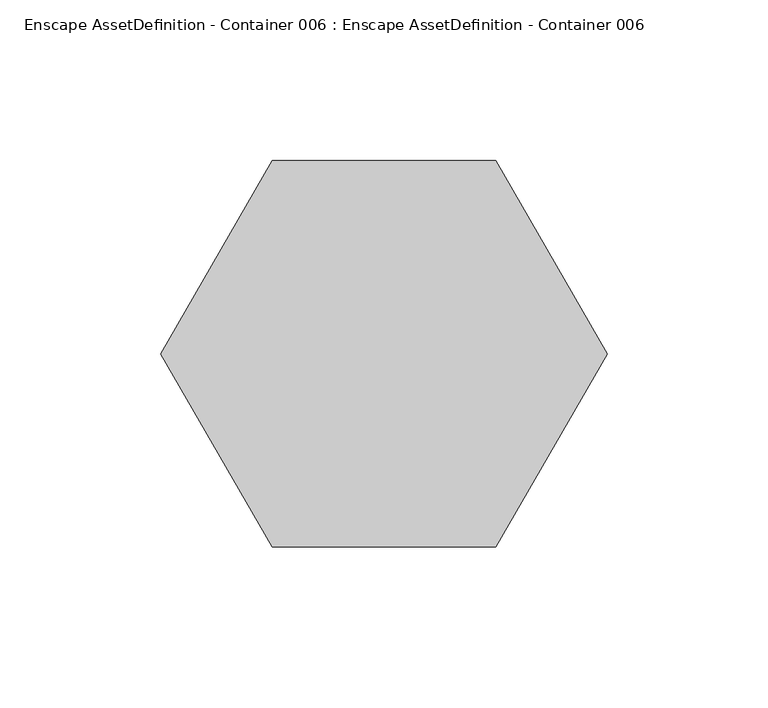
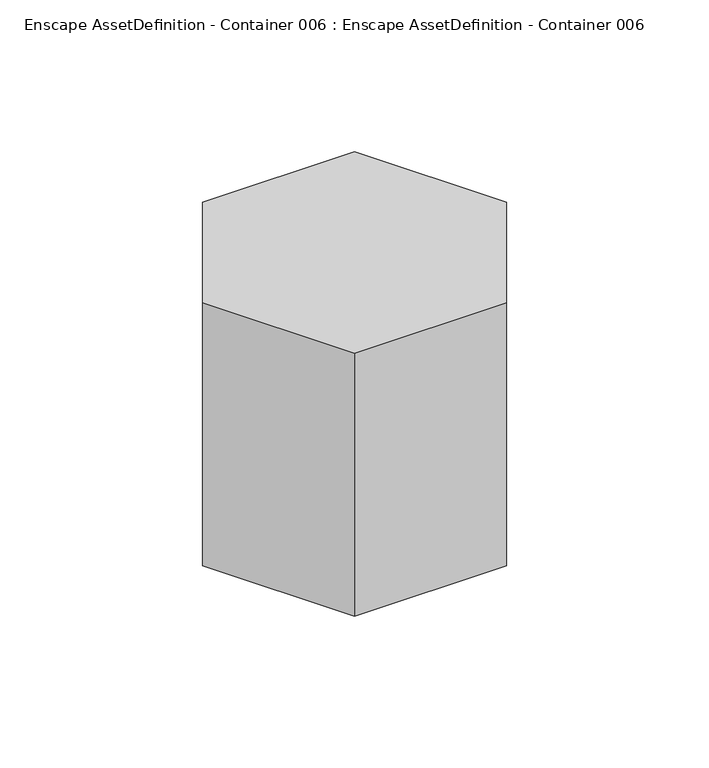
"""IFC4 building model written with IfcOpenShell, lengths in millimetres: geographic element geometry, Enscape AssetDefinition - Container 006 : Enscape AssetDefinition - Container 006."""

from ifc_helpers import new_model, si_unit, origin, place, context, project, spatial, triangles, source, transform, mapped, element, save


def enscape_assetdefinition_container_006_enscape_9a3ee224(model_context):
    return source(origin(), model_context, "Body", "Tessellation", [
        triangles([(69.3772288, -0.0049505, -0.0831683), (34.6881193, 60.0772287, 126.7722674), (34.6881193, 60.0772287, -0.0831683), (-34.6891095, 60.0772287, 126.7722674), (-34.6891095, -60.0881201, -0.0831683), (34.6881193, -60.0881201, -0.0831683), (-34.6891095, 60.0772287, -0.0831683), (-69.3782144, -0.0049505, -0.0831683), (-69.3782144, -0.0049505, 126.7722674), (-34.6891095, -60.0881201, 126.7722674), (34.6881193, -60.0881201, 126.7722674), (69.3772288, -0.0049505, 126.7722674)], [[12, 4, 10], [4, 9, 10], [12, 2, 4], [6, 1, 12], [5, 6, 11], [8, 5, 10], [7, 8, 9], [3, 7, 4], [1, 3, 2], [5, 7, 1], [7, 3, 1], [5, 8, 7], [11, 12, 10], [6, 12, 11], [5, 11, 10], [8, 10, 9], [7, 9, 4], [3, 4, 2], [1, 2, 12], [6, 5, 1]]),
    ])


if __name__ == "__main__":
    model = new_model("IFC4")
    model_context = context("Model", 3, world=origin())
    ifc_project = project(units=[si_unit("LENGTHUNIT", "METRE", prefix="MILLI")], contexts=[model_context])
    site = spatial("IfcSite", under=ifc_project)
    building = spatial("IfcBuilding", under=site)
    placement = place(None, origin())
    enscape_assetdefinition_container_006_enscape_shape = enscape_assetdefinition_container_006_enscape_9a3ee224(model_context)
    element("IfcGeographicElement", 1, ObjectType="Enscape AssetDefinition - Container 006 : Enscape AssetDefinition - Container 006", at=placement, inside=building, context=model_context, shape_type="MappedRepresentation", body=[
        mapped(enscape_assetdefinition_container_006_enscape_shape, transform((0.0, 0.0, 0.0), x_axis=(1.0, 0.0, 0.0), y_axis=(0.0, 1.0, 0.0), z_axis=(0.0, 0.0, 1.0))),
    ])
    save(model, "model.ifc")
